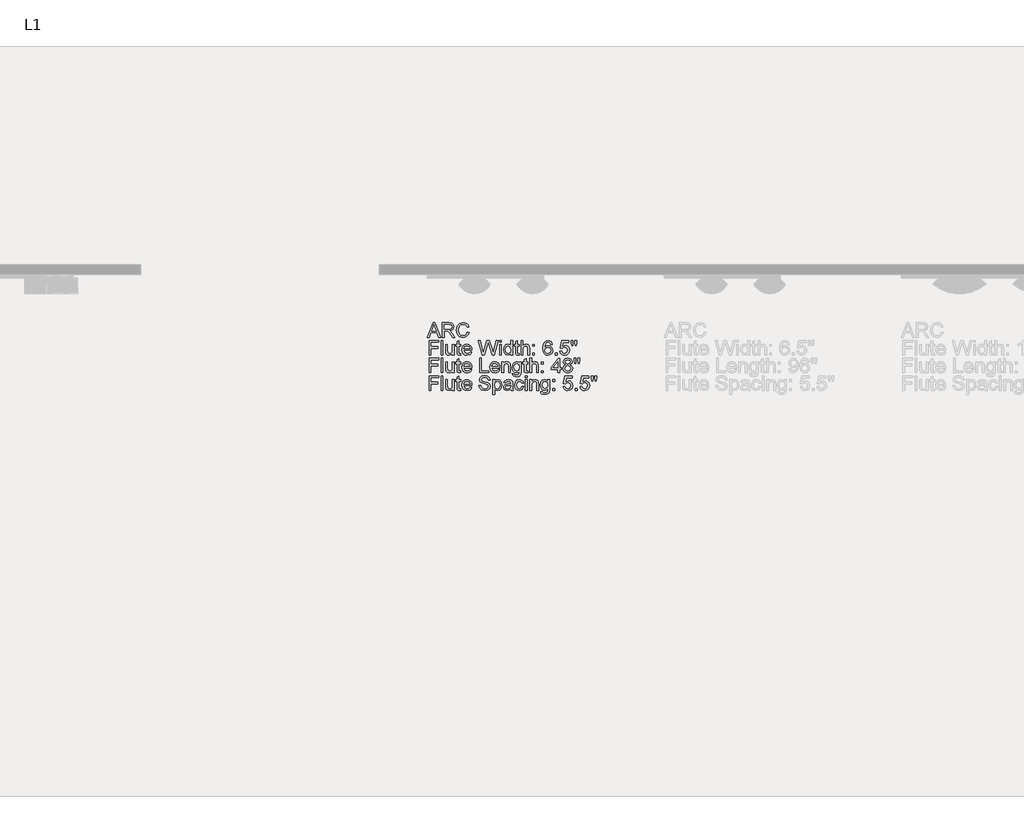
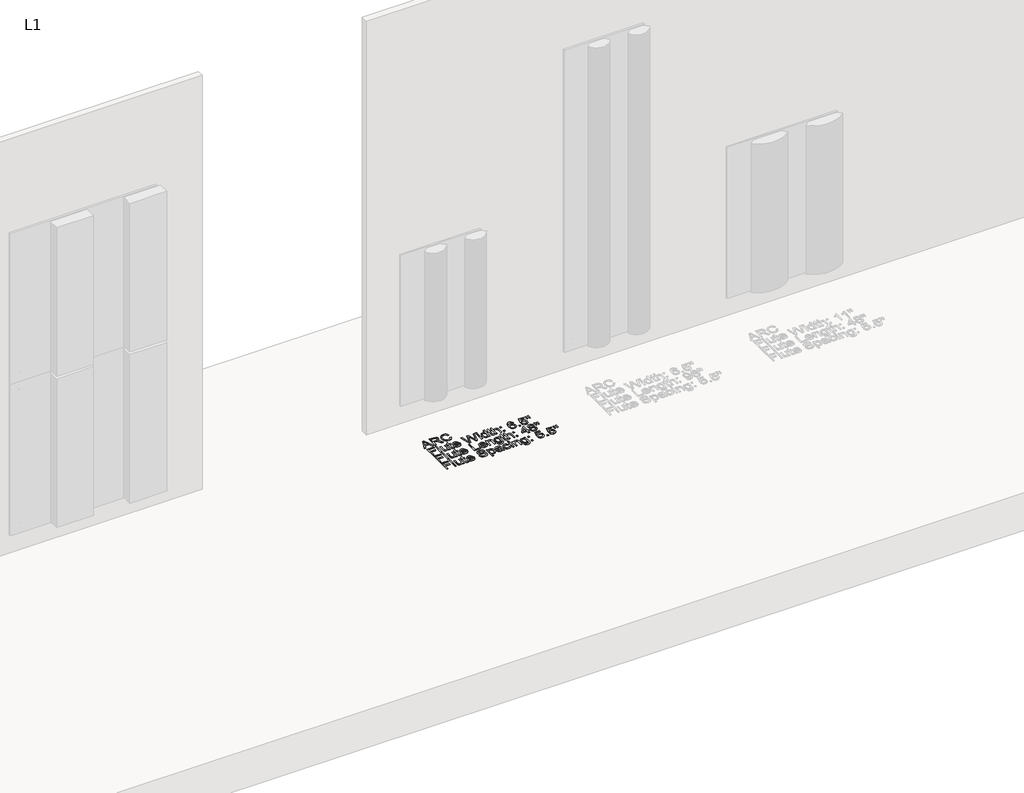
# One storey, part 2 of 17: 1 proxy.
"""IFC4 building model written with IfcOpenShell, lengths in millimetres."""

import ifcopenshell
import ifcopenshell.guid

model = None  # the IFC model being written
_history = None  # IfcOwnerHistory: only IFC2X3 demands one
_inside = {}  # id of a spatial element -> (the spatial element, [elements in it])
_under = {}  # id of a project, library or spatial element -> (it, [spatial elements below it])
_declared = {}  # id of a project -> (the project, [libraries it declares])
_typed = {}  # id of a type object -> (the type object, [elements of that type])
_made_of = {}  # id of a material, layer set ... -> (it, [elements and type objects made of it])


def new_model(schema):
    """Start an empty IFC model of exactly this schema.

    Asked for "IFC4X3", IfcOpenShell would pick the latest addendum, in which some entities
    have other attributes; the version numbers below select the first issue.
    IFC2X3 requires an IfcOwnerHistory on every rooted entity: one is made here for all.
    """
    global model, _history
    if schema == "IFC4X3":
        model = ifcopenshell.file(schema_version=(4, 3, 0, 0))
    else:
        model = ifcopenshell.file(schema=schema)
    _inside.clear()
    _under.clear()
    _declared.clear()
    _typed.clear()
    _made_of.clear()
    _history = None
    if model.schema == "IFC2X3":
        org = make("IfcOrganization", Name="unknown")
        user = make(
            "IfcPersonAndOrganization",
            ThePerson=make("IfcPerson", FamilyName="unknown"),
            TheOrganization=org,
        )
        app = make(
            "IfcApplication",
            ApplicationDeveloper=org,
            Version="unknown",
            ApplicationFullName="unknown",
            ApplicationIdentifier="unknown",
        )
        _history = make(
            "IfcOwnerHistory",
            OwningUser=user,
            OwningApplication=app,
            ChangeAction="ADDED",
            CreationDate=0,
        )
    return model


def make(cls, **values):
    """One entity of the class cls with the attributes given. An attribute that is None is left unset."""
    return model.create_entity(
        cls, **{name: value for name, value in values.items() if value is not None}
    )


def rooted(cls, **values):
    """An entity with a GlobalId (a new one), such as an element, a storey or a relation."""
    return make(cls, GlobalId=ifcopenshell.guid.new(), OwnerHistory=_history, **values)


def si_unit(unit_type, name, prefix=None):
    """IfcSIUnit, for example si_unit("LENGTHUNIT", "METRE", prefix="MILLI")."""
    return make("IfcSIUnit", UnitType=unit_type, Prefix=prefix, Name=name)


def assignment(units):
    """IfcUnitAssignment: the units of a project."""
    return None if units is None else make("IfcUnitAssignment", Units=units)


def point(xyz):
    """IfcCartesianPoint."""
    return None if xyz is None else make("IfcCartesianPoint", Coordinates=xyz)


def direction(xyz):
    """IfcDirection."""
    return None if xyz is None else make("IfcDirection", DirectionRatios=xyz)


def frame(location, z_axis=None, x_axis=None):
    """IfcAxis2Placement3D, a coordinate frame: its origin and axes. An axis left out is left unset."""
    return make(
        "IfcAxis2Placement3D",
        Location=point(location),
        Axis=direction(z_axis),
        RefDirection=direction(x_axis),
    )


def origin():
    """The frame at (0, 0, 0) with its axes left unset."""
    return frame((0.0, 0.0, 0.0))


def origin_with_axes():
    """The frame at (0, 0, 0) with the z axis (0, 0, 1) and the x axis (1, 0, 0) written out."""
    return frame((0.0, 0.0, 0.0), z_axis=(0.0, 0.0, 1.0), x_axis=(1.0, 0.0, 0.0))


def place(relative_to, where):
    """IfcLocalPlacement: puts the frame where relative to a parent placement (None: the world)."""
    return make(
        "IfcLocalPlacement", PlacementRelTo=relative_to, RelativePlacement=where
    )


def context(
    kind, dimensions, precision=None, world=None, true_north=None, identifier=None
):
    """IfcGeometricRepresentationContext, for example the 3D "Model" context."""
    return make(
        "IfcGeometricRepresentationContext",
        ContextIdentifier=identifier,
        ContextType=kind,
        CoordinateSpaceDimension=dimensions,
        Precision=precision,
        WorldCoordinateSystem=world,
        TrueNorth=true_north,
    )


def project(units=None, contexts=None):
    """IfcProject with its units and contexts."""
    return rooted(
        "IfcProject",
        Name="project",
        RepresentationContexts=contexts,
        UnitsInContext=assignment(units),
    )


def spatial(cls, under=None, at=None, **own):
    """A site, building, storey or space (cls), placed at a placement, below another one or the project."""
    s = rooted(cls, ObjectPlacement=at, **own)
    if under is not None:
        _under.setdefault(under.id(), (under, []))[1].append(s)
    return s


def polyline(points):
    """IfcPolyline through the points."""
    return make("IfcPolyline", Points=[point(p) for p in points])


def outline(outer, holes=None, kind="AREA"):
    """IfcArbitraryClosedProfileDef: a profile drawn as a closed curve; with holes, ...WithVoids."""
    if holes is None:
        return make("IfcArbitraryClosedProfileDef", ProfileType=kind, OuterCurve=outer)
    return make(
        "IfcArbitraryProfileDefWithVoids",
        ProfileType=kind,
        OuterCurve=outer,
        InnerCurves=holes,
    )


def extrude(swept, where, along, depth):
    """IfcExtrudedAreaSolid: the profile swept, set in the frame where, extruded along a direction by depth."""
    return make(
        "IfcExtrudedAreaSolid",
        SweptArea=swept,
        Position=where,
        ExtrudedDirection=direction(along),
        Depth=depth,
    )


def shape(context_of_items, identifier, shape_type, items):
    """IfcShapeRepresentation: the items that make up one representation, for example the "Body"."""
    return make(
        "IfcShapeRepresentation",
        ContextOfItems=context_of_items,
        RepresentationIdentifier=identifier,
        RepresentationType=shape_type,
        Items=items,
    )


def made_of(thing, what):
    """Note that an element or type object is made of a material, layer set ...; save() writes the relation."""
    if what is not None:
        _made_of.setdefault(what.id(), (what, []))[1].append(thing)
    return thing


def element(
    cls,
    number,
    at=None,
    inside=None,
    cuts=None,
    type_object=None,
    material=None,
    context=None,
    identifier="Body",
    shape_type=None,
    held_by="IfcProductDefinitionShape",
    body=None,
    shapes=None,
    **own,
):
    """One element of the class cls, such as IfcWall. Its Tag is "e" and its number.

    at: its placement. inside: the storey or other place that contains it. cuts: it is an
    opening in that element (IfcRelVoidsElement). A single representation is given by context,
    identifier, shape_type and body (its items); several are given by shapes. held_by: the class
    of the entity that holds the representations. save() writes the other relations.
    """
    e = rooted(cls, Tag="e%d" % number, ObjectPlacement=at, **own)
    if body is not None:
        shapes = [shape(context, identifier, shape_type, body)]
    if shapes is not None:
        e.Representation = make(held_by, Representations=shapes)
    if inside is not None:
        _inside.setdefault(inside.id(), (inside, []))[1].append(e)
    if cuts is not None:
        rooted(
            "IfcRelVoidsElement", RelatingBuildingElement=cuts, RelatedOpeningElement=e
        )
    if type_object is not None:
        _typed.setdefault(type_object.id(), (type_object, []))[1].append(e)
    return made_of(e, material)


def aggregate(whole, parts):
    """IfcRelAggregates: a whole, such as a stair, and the parts it consists of."""
    return rooted("IfcRelAggregates", RelatingObject=whole, RelatedObjects=parts)


def save(model, path):
    """Write the relations noted so far, then the file.

    IfcRelAggregates (storeys below a building ...), IfcRelContainedInSpatialStructure (elements
    in a storey), IfcRelDefinesByType, IfcRelAssociatesMaterial and IfcRelDeclares: one each for
    every whole, place, type object, material and project.
    """
    for whole, parts in _under.values():
        aggregate(whole, parts)
    for where, things in _inside.values():
        rooted(
            "IfcRelContainedInSpatialStructure",
            RelatedElements=things,
            RelatingStructure=where,
        )
    for kind, things in _typed.values():
        rooted("IfcRelDefinesByType", RelatedObjects=things, RelatingType=kind)
    for what, things in _made_of.values():
        rooted("IfcRelAssociatesMaterial", RelatedObjects=things, RelatingMaterial=what)
    for by, libraries in _declared.values():
        rooted("IfcRelDeclares", RelatingContext=by, RelatedDefinitions=libraries)
    model.write(path)


model = new_model("IFC4")

# Units and contexts
model_context = context("Model", 3, world=origin())
ifc_project = project(units=[si_unit("LENGTHUNIT", "METRE", prefix="MILLI")], contexts=[model_context])

# Site, building, storey
site = spatial("IfcSite", under=ifc_project)
building = spatial("IfcBuilding", under=site)
storey = spatial("IfcBuildingStorey", under=building, Name="L1", Elevation=0.0)

# Proxy
placement = place(None, origin())
element("IfcBuildingElementProxy", 1, Name="3\" Arial", ObjectType="3\" Arial", at=placement, inside=storey, context=model_context, shape_type="SweptSolid", body=[
    extrude(outline(polyline([(1504.4267247, -355.6), (1534.9822674, -279.0522917), (1543.1304121, -279.0522917), (1573.6672665, -355.6), (1563.5568392, -355.6), (1554.8106655, -331.6788411), (1523.2646372, -331.6788411), (1514.5184635, -355.6), (1504.4267247, -355.6)]), holes=[polyline([(1526.7780575, -322.1103776), (1551.3159337, -322.1103776), (1544.4012237, -303.2911534), (1539.0376514, -288.6207552), (1534.272108, -301.6465737), (1526.7780575, -322.1103776)])]), origin_with_axes(), (0.0, 0.0, 1.0), 3.175),
    extrude(outline(polyline([(1583.8898242, -355.6), (1583.8898242, -279.0522917), (1616.8748597, -279.0522917), (1632.1900079, -281.1173605), (1640.5624135, -288.424527), (1643.6927214, -300.0019941), (1638.5066889, -313.7940372), (1622.4813813, -320.9143197), (1627.9197072, -325.0070804), (1635.6753955, -334.8558701), (1648.4395763, -355.6), (1637.3199751, -355.6), (1627.3590551, -339.7335439), (1620.164019, -329.23066), (1615.1088054, -324.2688884), (1610.5581787, -322.4467689), (1605.0077223, -322.1103776), (1593.4582878, -322.1103776), (1593.4582878, -355.6), (1583.8898242, -355.6)]), holes=[polyline([(1593.4582878, -312.5419141), (1614.8752003, -312.5419141), (1625.7985732, -311.1870047), (1632.0031238, -306.8512946), (1634.1242578, -300.3570738), (1630.0782181, -291.928603), (1617.2860046, -288.6207552), (1593.4582878, -288.6207552), (1593.4582878, -312.5419141)])]), origin_with_axes(), (0.0, 0.0, 1.0), 3.175),
    extrude(outline(polyline([(1714.26014, -328.3896818), (1723.8286035, -330.8565513), (1719.4134678, -342.0065212), (1712.4847415, -350.1523298), (1703.3834881, -355.1351259), (1692.4507709, -356.7960579), (1672.538275, -351.7688769), (1660.8580217, -337.2106091), (1656.8493587, -316.7468053), (1661.381297, -295.9466101), (1674.2669525, -282.4629256), (1692.6563434, -277.8562337), (1703.1475469, -279.3466341), (1711.8213031, -283.817835), (1718.4066299, -290.9941827), (1722.6325456, -300.600023), (1713.064082, -302.8800085), (1705.2149518, -291.1156573), (1692.2825753, -287.4246973), (1677.3131626, -291.517458), (1668.8566592, -302.5062404), (1666.4178223, -316.7281169), (1669.3051809, -333.2112904), (1678.2943039, -343.7422068), (1691.4976623, -347.2275944), (1706.1400278, -342.4807394), (1714.26014, -328.3896818)])), origin_with_axes(), (0.0, 0.0, 1.0), 3.175),
    extrude(outline(polyline([(1513.3224056, -448.5448112), (1513.3224056, -371.9971029), (1564.7528971, -371.9971029), (1564.7528971, -381.5655664), (1522.8908691, -381.5655664), (1522.8908691, -404.2906673), (1558.7726074, -404.2906673), (1558.7726074, -413.8591309), (1522.8908691, -413.8591309), (1522.8908691, -448.5448112), (1513.3224056, -448.5448112)])), origin_with_axes(), (0.0, 0.0, 1.0), 3.175),
    extrude(outline(polyline([(1576.7134766, -448.5448112), (1576.7134766, -371.9971029), (1586.2819401, -371.9971029), (1586.2819401, -448.5448112), (1576.7134766, -448.5448112)])), origin_with_axes(), (0.0, 0.0, 1.0), 3.175),
    extrude(outline(polyline([(1636.5163737, -448.5448112), (1636.5163737, -438.8829056), (1629.0223232, -447.0263783), (1619.2482872, -449.7408691), (1610.24982, -447.8346518), (1604.0452694, -443.05042), (1601.1952876, -436.0048912), (1600.6346354, -427.1092103), (1600.6346354, -392.3300879), (1610.203099, -392.3300879), (1610.203099, -422.6053046), (1610.7824395, -432.3606522), (1614.5668416, -438.0886484), (1621.6964683, -440.1724056), (1629.6857615, -438.0419274), (1634.9652361, -432.2391775), (1636.5163737, -421.5774423), (1636.5163737, -392.3300879), (1646.0848372, -392.3300879), (1646.0848372, -448.5448112), (1636.5163737, -448.5448112)])), origin_with_axes(), (0.0, 0.0, 1.0), 3.175),
    extrude(outline(polyline([(1679.5744596, -440.5648621), (1680.7705176, -448.8251373), (1673.6128583, -449.7408691), (1665.5955324, -448.1523547), (1661.5962137, -443.9848403), (1660.4375326, -433.1268768), (1660.4375326, -401.8985514), (1653.2611849, -401.8985514), (1653.2611849, -392.3300879), (1660.4375326, -392.3300879), (1660.4375326, -378.6688636), (1670.0059961, -373.0436536), (1670.0059961, -392.3300879), (1679.5744596, -392.3300879), (1679.5744596, -401.8985514), (1670.0059961, -401.8985514), (1670.0059961, -432.8465507), (1670.510583, -437.7802897), (1672.1458185, -439.5276556), (1675.4069452, -440.1724056), (1679.5744596, -440.5648621)])), origin_with_axes(), (0.0, 0.0, 1.0), 3.175),
    extrude(outline(polyline([(1728.5007049, -431.8), (1737.8822843, -432.9960579), (1729.108078, -445.3490939), (1712.7650675, -449.7408691), (1701.538008, -447.846332), (1692.8992927, -442.1627208), (1687.3908852, -433.0591313), (1685.5547494, -420.9046597), (1687.4095736, -408.3413792), (1692.9740463, -398.9457834), (1701.4959591, -393.0869683), (1712.2231038, -391.1340299), (1722.6161932, -393.0822962), (1730.9208533, -398.927095), (1736.3661875, -408.3040024), (1738.1812988, -420.8485945), (1738.1252336, -423.4275944), (1695.1232129, -423.4275944), (1700.6269483, -435.855384), (1712.9519516, -440.1724056), (1722.3335311, -438.1727462), (1728.5007049, -431.8)]), holes=[polyline([(1695.1232129, -413.8591309), (1728.6128353, -413.8591309), (1724.7817122, -405.1877108), (1712.185727, -400.7024935), (1700.4026874, -404.2813231), (1695.1232129, -413.8591309)])]), origin_with_axes(), (0.0, 0.0, 1.0), 3.175),
    extrude(outline(polyline([(1792.54587, -448.5448112), (1771.6709212, -371.9971029), (1781.5383993, -371.9971029), (1793.6484859, -422.3062901), (1797.386167, -437.8363549), (1801.3854857, -424.100377), (1816.5604709, -371.9971029), (1830.7823474, -371.9971029), (1841.8085065, -409.7663701), (1850.0127165, -437.8363549), (1853.6382671, -422.7548118), (1865.8417958, -371.9971029), (1875.7279622, -371.9971029), (1854.8717019, -448.5448112), (1844.6304557, -448.5448112), (1826.2597533, -389.4894503), (1823.6994417, -381.2478635), (1820.8214273, -391.1714068), (1804.0953045, -448.5448112), (1792.54587, -448.5448112)])), origin_with_axes(), (0.0, 0.0, 1.0), 3.175),
    extrude(outline(polyline([(1884.1003678, -448.5448112), (1884.1003678, -392.3300879), (1893.6688314, -392.3300879), (1893.6688314, -448.5448112), (1884.1003678, -448.5448112)])), origin_with_axes(), (0.0, 0.0, 1.0), 3.175),
    extrude(outline(polyline([(1884.1003678, -381.5655664), (1884.1003678, -371.9971029), (1893.6688314, -371.9971029), (1893.6688314, -381.5655664), (1884.1003678, -381.5655664)])), origin_with_axes(), (0.0, 0.0, 1.0), 3.175),
    extrude(outline(polyline([(1942.707207, -448.5448112), (1942.707207, -439.5183114), (1936.3765097, -447.1852297), (1927.6256639, -449.7408691), (1915.7772149, -446.0405649), (1907.4048093, -435.7152209), (1904.4333529, -420.4935148), (1907.1712043, -405.2624644), (1915.3754142, -394.778269), (1927.5882871, -391.1340299), (1936.4092144, -393.7410625), (1942.707207, -400.5156094), (1942.707207, -371.9971029), (1952.2756706, -371.9971029), (1952.2756706, -448.5448112), (1942.707207, -448.5448112)]), holes=[polyline([(1914.0018164, -420.4561379), (1918.318838, -435.2666992), (1928.504019, -440.1724056), (1938.5677252, -435.4909601), (1942.707207, -421.1849858), (1938.4929716, -405.6549209), (1928.1115625, -400.7024935), (1918.038512, -405.4586927), (1914.0018164, -420.4561379)])]), origin_with_axes(), (0.0, 0.0, 1.0), 3.175),
    extrude(outline(polyline([(1986.9613509, -440.5648621), (1988.1574089, -448.8251373), (1980.9997496, -449.7408691), (1972.9824237, -448.1523547), (1968.983105, -443.9848403), (1967.8244238, -433.1268768), (1967.8244238, -401.8985514), (1960.6480762, -401.8985514), (1960.6480762, -392.3300879), (1967.8244238, -392.3300879), (1967.8244238, -378.6688636), (1977.3928874, -373.0436536), (1977.3928874, -392.3300879), (1986.9613509, -392.3300879), (1986.9613509, -401.8985514), (1977.3928874, -401.8985514), (1977.3928874, -432.8465507), (1977.8974743, -437.7802897), (1979.5327098, -439.5276556), (1982.7938365, -440.1724056), (1986.9613509, -440.5648621)])), origin_with_axes(), (0.0, 0.0, 1.0), 3.175),
    extrude(outline(polyline([(1996.5298145, -448.5448112), (1996.5298145, -371.9971029), (2006.098278, -371.9971029), (2006.098278, -400.1418413), (2013.5596238, -393.3859828), (2022.7496472, -391.1340299), (2033.4954802, -393.5915553), (2040.0177337, -400.3847906), (2041.9800163, -412.9620874), (2041.9800163, -448.5448112), (2032.4115527, -448.5448112), (2032.4115527, -413.9525729), (2029.3653427, -403.860834), (2020.7312994, -400.7024935), (2012.8915133, -402.8329717), (2007.6587598, -408.607689), (2006.098278, -418.6807394), (2006.098278, -448.5448112), (1996.5298145, -448.5448112)])), origin_with_axes(), (0.0, 0.0, 1.0), 3.175),
    extrude(outline(polyline([(2057.5287695, -401.8985514), (2057.5287695, -392.3300879), (2067.0972331, -392.3300879), (2067.0972331, -401.8985514), (2057.5287695, -401.8985514)])), origin_with_axes(), (0.0, 0.0, 1.0), 3.175),
    extrude(outline(polyline([(2057.5287695, -448.5448112), (2057.5287695, -438.9763477), (2067.0972331, -438.9763477), (2067.0972331, -448.5448112), (2057.5287695, -448.5448112)])), origin_with_axes(), (0.0, 0.0, 1.0), 3.175),
    extrude(outline(polyline([(2161.5858106, -392.3300879), (2152.017347, -393.5261458), (2148.3917964, -385.5461967), (2138.8046444, -381.5655664), (2130.1706012, -383.8829287), (2123.6390035, -392.5823814), (2120.9198405, -409.6355512), (2129.3576555, -402.0013377), (2139.8138183, -399.5064355), (2148.653434, -401.2117525), (2156.072731, -406.3277035), (2161.1045841, -414.144129), (2162.7818685, -423.9508698), (2159.623528, -437.1542281), (2150.9334195, -446.4984308), (2138.3934995, -449.7408691), (2127.537872, -447.5917025), (2118.8921485, -441.1442027), (2113.2365698, -429.7629638), (2111.351377, -412.8125802), (2113.4444784, -393.7550788), (2119.7237826, -380.7245882), (2128.2970885, -374.1789742), (2139.4026734, -371.9971029), (2154.5215933, -377.398052), (2161.5858106, -392.3300879)]), holes=[polyline([(2120.9198405, -423.8013625), (2123.1344165, -432.0896703), (2129.0212642, -438.1073368), (2137.6459633, -440.1724056), (2148.9244159, -435.8927608), (2153.213405, -424.2685726), (2148.9804811, -413.1396273), (2137.2535068, -409.0748991), (2125.6760397, -413.1396273), (2120.9198405, -423.8013625)])]), origin_with_axes(), (0.0, 0.0, 1.0), 3.175),
    extrude(outline(polyline([(2175.9385059, -448.5448112), (2175.9385059, -438.9763477), (2185.5069694, -438.9763477), (2185.5069694, -448.5448112), (2175.9385059, -448.5448112)])), origin_with_axes(), (0.0, 0.0, 1.0), 3.175),
    extrude(outline(polyline([(2201.0557227, -428.2118262), (2210.6241862, -427.0157682), (2215.4457948, -436.8739021), (2225.4440917, -440.1724056), (2237.4420479, -435.5844021), (2241.7216927, -423.408906), (2237.7130298, -412.0463555), (2225.5935989, -407.8788411), (2217.1931607, -409.5421092), (2211.8202441, -413.8591309), (2202.2517806, -412.6630729), (2210.6241862, -373.1931608), (2247.7019824, -373.1931608), (2247.7019824, -382.7616243), (2218.361186, -382.7616243), (2214.2497368, -403.8421456), (2228.2473525, -398.3103776), (2237.1897544, -400.0250388), (2244.6183955, -405.1690224), (2249.6222161, -413.0088084), (2251.2901563, -422.810877), (2249.7904117, -432.3793406), (2245.2911781, -440.5648621), (2236.6758233, -447.4468674), (2225.4067148, -449.7408691), (2216.008783, -448.2668212), (2208.5217406, -443.8446773), (2203.3894373, -436.9883685), (2201.0557227, -428.2118262)])), origin_with_axes(), (0.0, 0.0, 1.0), 3.175),
    extrude(outline(polyline([(2261.9986125, -399.5064355), (2259.6625619, -384.7239069), (2259.6625619, -371.9971029), (2269.2310254, -371.9971029), (2269.2310254, -384.7239069), (2267.137924, -399.5064355), (2261.9986125, -399.5064355)])), origin_with_axes(), (0.0, 0.0, 1.0), 3.175),
    extrude(outline(polyline([(2281.0794744, -399.5064355), (2278.7994889, -384.7239069), (2278.7994889, -371.9971029), (2288.3679525, -371.9971029), (2288.3679525, -384.7239069), (2286.1253438, -399.5064355), (2281.0794744, -399.5064355)])), origin_with_axes(), (0.0, 0.0, 1.0), 3.175),
    extrude(outline(polyline([(1513.3224056, -541.4896224), (1513.3224056, -464.9419141), (1564.7528971, -464.9419141), (1564.7528971, -474.5103776), (1522.8908691, -474.5103776), (1522.8908691, -497.2354785), (1558.7726074, -497.2354785), (1558.7726074, -506.8039421), (1522.8908691, -506.8039421), (1522.8908691, -541.4896224), (1513.3224056, -541.4896224)])), origin_with_axes(), (0.0, 0.0, 1.0), 3.175),
    extrude(outline(polyline([(1576.7134766, -541.4896224), (1576.7134766, -464.9419141), (1586.2819401, -464.9419141), (1586.2819401, -541.4896224), (1576.7134766, -541.4896224)])), origin_with_axes(), (0.0, 0.0, 1.0), 3.175),
    extrude(outline(polyline([(1636.5163737, -541.4896224), (1636.5163737, -531.8277168), (1629.0223232, -539.9711895), (1619.2482872, -542.6856803), (1610.24982, -540.779463), (1604.0452694, -535.9952312), (1601.1952876, -528.9497024), (1600.6346354, -520.0540215), (1600.6346354, -485.2748991), (1610.203099, -485.2748991), (1610.203099, -515.5501158), (1610.7824395, -525.3054634), (1614.5668416, -531.0334596), (1621.6964683, -533.1172168), (1629.6857615, -530.9867386), (1634.9652361, -525.1839887), (1636.5163737, -514.5222535), (1636.5163737, -485.2748991), (1646.0848372, -485.2748991), (1646.0848372, -541.4896224), (1636.5163737, -541.4896224)])), origin_with_axes(), (0.0, 0.0, 1.0), 3.175),
    extrude(outline(polyline([(1679.5744596, -533.5096733), (1680.7705176, -541.7699485), (1673.6128583, -542.6856803), (1665.5955324, -541.0971659), (1661.5962137, -536.9296515), (1660.4375326, -526.071688), (1660.4375326, -494.8433626), (1653.2611849, -494.8433626), (1653.2611849, -485.2748991), (1660.4375326, -485.2748991), (1660.4375326, -471.6136748), (1670.0059961, -465.9884648), (1670.0059961, -485.2748991), (1679.5744596, -485.2748991), (1679.5744596, -494.8433626), (1670.0059961, -494.8433626), (1670.0059961, -525.7913619), (1670.510583, -530.7251009), (1672.1458185, -532.4724668), (1675.4069452, -533.1172168), (1679.5744596, -533.5096733)])), origin_with_axes(), (0.0, 0.0, 1.0), 3.175),
    extrude(outline(polyline([(1728.5007049, -524.7448112), (1737.8822843, -525.9408691), (1729.108078, -538.2939051), (1712.7650675, -542.6856803), (1701.538008, -540.7911432), (1692.8992927, -535.107532), (1687.3908852, -526.0039425), (1685.5547494, -513.8494709), (1687.4095736, -501.2861904), (1692.9740463, -491.8905946), (1701.4959591, -486.0317795), (1712.2231038, -484.0788411), (1722.6161932, -486.0271074), (1730.9208533, -491.8719062), (1736.3661875, -501.2488136), (1738.1812988, -513.7934057), (1738.1252336, -516.3724056), (1695.1232129, -516.3724056), (1700.6269483, -528.8001952), (1712.9519516, -533.1172168), (1722.3335311, -531.1175574), (1728.5007049, -524.7448112)]), holes=[polyline([(1695.1232129, -506.8039421), (1728.6128353, -506.8039421), (1724.7817122, -498.132522), (1712.185727, -493.6473047), (1700.4026874, -497.2261343), (1695.1232129, -506.8039421)])]), origin_with_axes(), (0.0, 0.0, 1.0), 3.175),
    extrude(outline(polyline([(1778.8472689, -541.4896224), (1778.8472689, -464.9419141), (1788.4157324, -464.9419141), (1788.4157324, -531.9211589), (1826.6895866, -531.9211589), (1826.6895866, -541.4896224), (1778.8472689, -541.4896224)])), origin_with_axes(), (0.0, 0.0, 1.0), 3.175),
    extrude(outline(polyline([(1875.6158318, -524.7448112), (1884.9974113, -525.9408691), (1876.223205, -538.2939051), (1859.8801945, -542.6856803), (1848.653135, -540.7911432), (1840.0144196, -535.107532), (1834.5060121, -526.0039425), (1832.6698763, -513.8494709), (1834.5247005, -501.2861904), (1840.0891732, -491.8905946), (1848.6110861, -486.0317795), (1859.3382307, -484.0788411), (1869.7313202, -486.0271074), (1878.0359803, -491.8719062), (1883.4813144, -501.2488136), (1885.2964258, -513.7934057), (1885.2403606, -516.3724056), (1842.2383398, -516.3724056), (1847.7420752, -528.8001952), (1860.0670786, -533.1172168), (1869.448658, -531.1175574), (1875.6158318, -524.7448112)]), holes=[polyline([(1842.2383398, -506.8039421), (1875.7279622, -506.8039421), (1871.8968391, -498.132522), (1859.3008539, -493.6473047), (1847.5178144, -497.2261343), (1842.2383398, -506.8039421)])]), origin_with_axes(), (0.0, 0.0, 1.0), 3.175),
    extrude(outline(polyline([(1894.8648893, -541.4896224), (1894.8648893, -485.2748991), (1904.4333529, -485.2748991), (1904.4333529, -493.1240293), (1911.7498636, -486.3401382), (1921.7388162, -484.0788411), (1930.7746602, -485.9009607), (1936.941834, -490.6851924), (1939.8105042, -497.7213771), (1940.3150911, -506.9721377), (1940.3150911, -541.4896224), (1930.7466276, -541.4896224), (1930.7466276, -508.2616377), (1929.6440117, -499.79579), (1925.7474792, -495.319917), (1919.1785047, -493.6473047), (1908.7970955, -497.4036742), (1904.4333529, -511.6629274), (1904.4333529, -541.4896224), (1894.8648893, -541.4896224)])), origin_with_axes(), (0.0, 0.0, 1.0), 3.175),
    extrude(outline(polyline([(1951.0796126, -546.2738542), (1960.6480762, -547.4699121), (1963.7503515, -552.5157816), (1973.0384889, -554.6462598), (1982.8312133, -552.2354555), (1987.5033147, -545.4702527), (1988.1574089, -534.3132747), (1981.4202387, -539.6955355), (1973.2066846, -541.4896224), (1963.3415426, -539.4011931), (1955.985319, -533.1359052), (1951.4089958, -523.950554), (1949.8835547, -513.1019347), (1952.6214061, -498.272685), (1960.5452899, -487.7791454), (1972.7394744, -484.0788411), (1981.2754036, -486.1719425), (1988.1574089, -492.4512467), (1988.1574089, -485.2748991), (1997.7258724, -485.2748991), (1997.7258724, -533.8086878), (1995.1094957, -552.3943069), (1986.8211879, -561.0376944), (1972.8516049, -564.2147233), (1956.9384277, -559.7388502), (1952.4415302, -554.1346647), (1951.0796126, -546.2738542)]), holes=[polyline([(1959.4520182, -512.4478405), (1963.5354348, -527.2584017), (1973.7860251, -531.9211589), (1984.0179271, -527.2864343), (1988.1574089, -512.7281666), (1983.8964524, -498.4595691), (1973.6365179, -493.6473047), (1963.5915, -498.3848154), (1959.4520182, -512.4478405)])]), origin_with_axes(), (0.0, 0.0, 1.0), 3.175),
    extrude(outline(polyline([(2032.4115527, -533.5096733), (2033.6076107, -541.7699485), (2026.4499514, -542.6856803), (2018.4326255, -541.0971659), (2014.4333068, -536.9296515), (2013.2746257, -526.071688), (2013.2746257, -494.8433626), (2006.098278, -494.8433626), (2006.098278, -485.2748991), (2013.2746257, -485.2748991), (2013.2746257, -471.6136748), (2022.8430892, -465.9884648), (2022.8430892, -485.2748991), (2032.4115527, -485.2748991), (2032.4115527, -494.8433626), (2022.8430892, -494.8433626), (2022.8430892, -525.7913619), (2023.3476761, -530.7251009), (2024.9829116, -532.4724668), (2028.2440383, -533.1172168), (2032.4115527, -533.5096733)])), origin_with_axes(), (0.0, 0.0, 1.0), 3.175),
    extrude(outline(polyline([(2041.9800163, -541.4896224), (2041.9800163, -464.9419141), (2051.5484798, -464.9419141), (2051.5484798, -493.0866525), (2059.0098257, -486.330794), (2068.199849, -484.0788411), (2078.9456821, -486.5363664), (2085.4679355, -493.3296018), (2087.4302181, -505.9068986), (2087.4302181, -541.4896224), (2077.8617546, -541.4896224), (2077.8617546, -506.8973841), (2074.8155445, -496.8056452), (2066.1815012, -493.6473047), (2058.3417152, -495.7777829), (2053.1089617, -501.5525002), (2051.5484798, -511.6255506), (2051.5484798, -541.4896224), (2041.9800163, -541.4896224)])), origin_with_axes(), (0.0, 0.0, 1.0), 3.175),
    extrude(outline(polyline([(2102.9789714, -494.8433626), (2102.9789714, -485.2748991), (2112.5474349, -485.2748991), (2112.5474349, -494.8433626), (2102.9789714, -494.8433626)])), origin_with_axes(), (0.0, 0.0, 1.0), 3.175),
    extrude(outline(polyline([(2102.9789714, -541.4896224), (2102.9789714, -531.9211589), (2112.5474349, -531.9211589), (2112.5474349, -541.4896224), (2102.9789714, -541.4896224)])), origin_with_axes(), (0.0, 0.0, 1.0), 3.175),
    extrude(outline(polyline([(2189.0951432, -541.4896224), (2189.0951432, -523.5487533), (2154.4094629, -523.5487533), (2154.4094629, -513.9802897), (2191.4872591, -466.137972), (2198.6636068, -466.137972), (2198.6636068, -513.9802897), (2208.2320703, -513.9802897), (2208.2320703, -523.5487533), (2198.6636068, -523.5487533), (2198.6636068, -541.4896224), (2189.0951432, -541.4896224)]), holes=[polyline([(2189.0951432, -513.9802897), (2189.0951432, -484.4152324), (2166.1831583, -513.9802897), (2189.0951432, -513.9802897)])]), origin_with_axes(), (0.0, 0.0, 1.0), 3.175),
    extrude(outline(polyline([(2230.5460263, -499.3285799), (2221.8278852, -493.385667), (2218.9965918, -484.1349064), (2220.5383852, -476.6548721), (2225.1637656, -470.473682), (2232.3541295, -466.3248561), (2241.5908739, -464.9419141), (2250.8836834, -466.3575608), (2258.1674894, -470.6045009), (2262.8769676, -476.8838051), (2264.4467936, -484.396544), (2261.652877, -493.4136996), (2253.1776852, -499.3285799), (2263.3535219, -506.8319747), (2266.8389095, -519.2130432), (2265.110232, -528.3610176), (2259.9241995, -535.9204776), (2251.9162178, -540.9943797), (2241.7216927, -542.6856803), (2231.5271676, -540.9873715), (2223.5191859, -535.892445), (2218.3331534, -528.2605675), (2216.6044759, -518.9514055), (2220.2300266, -506.2806667), (2230.5460263, -499.3285799)]), holes=[polyline([(2228.5650553, -484.4152324), (2231.9570009, -491.9279714), (2241.8338231, -494.8433626), (2251.5144171, -491.9466598), (2254.8783301, -484.8450658), (2251.4022867, -477.4911783), (2241.7216927, -474.5103776), (2232.0130661, -477.4257688), (2228.5650553, -484.4152324)]), polyline([(2226.1729395, -518.6150142), (2227.7707981, -525.8193945), (2233.4240407, -531.2109995), (2241.7964463, -533.1172168), (2253.1963736, -529.1085538), (2257.270446, -518.9140287), (2253.0655548, -508.5232753), (2241.4787434, -504.4118262), (2230.2189792, -508.4672101), (2226.1729395, -518.6150142)])]), origin_with_axes(), (0.0, 0.0, 1.0), 3.175),
    extrude(outline(polyline([(2277.5473658, -492.4512467), (2275.2113151, -477.6687181), (2275.2113151, -464.9419141), (2284.7797787, -464.9419141), (2284.7797787, -477.6687181), (2282.6866773, -492.4512467), (2277.5473658, -492.4512467)])), origin_with_axes(), (0.0, 0.0, 1.0), 3.175),
    extrude(outline(polyline([(2296.6282276, -492.4512467), (2294.3482422, -477.6687181), (2294.3482422, -464.9419141), (2303.9167057, -464.9419141), (2303.9167057, -477.6687181), (2301.6740971, -492.4512467), (2296.6282276, -492.4512467)])), origin_with_axes(), (0.0, 0.0, 1.0), 3.175),
    extrude(outline(polyline([(1513.3224056, -634.4344336), (1513.3224056, -557.8867253), (1564.7528971, -557.8867253), (1564.7528971, -567.4551888), (1522.8908691, -567.4551888), (1522.8908691, -590.1802897), (1558.7726074, -590.1802897), (1558.7726074, -599.7487533), (1522.8908691, -599.7487533), (1522.8908691, -634.4344336), (1513.3224056, -634.4344336)])), origin_with_axes(), (0.0, 0.0, 1.0), 3.175),
    extrude(outline(polyline([(1576.7134766, -634.4344336), (1576.7134766, -557.8867253), (1586.2819401, -557.8867253), (1586.2819401, -634.4344336), (1576.7134766, -634.4344336)])), origin_with_axes(), (0.0, 0.0, 1.0), 3.175),
    extrude(outline(polyline([(1636.5163737, -634.4344336), (1636.5163737, -624.772528), (1629.0223232, -632.9160007), (1619.2482872, -635.6304915), (1610.24982, -633.7242742), (1604.0452694, -628.9400424), (1601.1952876, -621.8945136), (1600.6346354, -612.9988327), (1600.6346354, -578.2197103), (1610.203099, -578.2197103), (1610.203099, -608.494927), (1610.7824395, -618.2502746), (1614.5668416, -623.9782708), (1621.6964683, -626.062028), (1629.6857615, -623.9315498), (1634.9652361, -618.1287999), (1636.5163737, -607.4670647), (1636.5163737, -578.2197103), (1646.0848372, -578.2197103), (1646.0848372, -634.4344336), (1636.5163737, -634.4344336)])), origin_with_axes(), (0.0, 0.0, 1.0), 3.175),
    extrude(outline(polyline([(1679.5744596, -626.4544845), (1680.7705176, -634.7147597), (1673.6128583, -635.6304915), (1665.5955324, -634.0419771), (1661.5962137, -629.8744627), (1660.4375326, -619.0164992), (1660.4375326, -587.7881738), (1653.2611849, -587.7881738), (1653.2611849, -578.2197103), (1660.4375326, -578.2197103), (1660.4375326, -564.558486), (1670.0059961, -558.933276), (1670.0059961, -578.2197103), (1679.5744596, -578.2197103), (1679.5744596, -587.7881738), (1670.0059961, -587.7881738), (1670.0059961, -618.7361731), (1670.510583, -623.6699121), (1672.1458185, -625.417278), (1675.4069452, -626.062028), (1679.5744596, -626.4544845)])), origin_with_axes(), (0.0, 0.0, 1.0), 3.175),
    extrude(outline(polyline([(1728.5007049, -617.6896224), (1737.8822843, -618.8856803), (1729.108078, -631.2387163), (1712.7650675, -635.6304915), (1701.538008, -633.7359544), (1692.8992927, -628.0523432), (1687.3908852, -618.9487537), (1685.5547494, -606.7942821), (1687.4095736, -594.2310016), (1692.9740463, -584.8354058), (1701.4959591, -578.9765907), (1712.2231038, -577.0236523), (1722.6161932, -578.9719186), (1730.9208533, -584.8167174), (1736.3661875, -594.1936248), (1738.1812988, -606.7382169), (1738.1252336, -609.3172168), (1695.1232129, -609.3172168), (1700.6269483, -621.7450064), (1712.9519516, -626.062028), (1722.3335311, -624.0623686), (1728.5007049, -617.6896224)]), holes=[polyline([(1695.1232129, -599.7487533), (1728.6128353, -599.7487533), (1724.7817122, -591.0773332), (1712.185727, -586.5921159), (1700.4026874, -590.1709455), (1695.1232129, -599.7487533)])]), origin_with_axes(), (0.0, 0.0, 1.0), 3.175),
    extrude(outline(polyline([(1775.2590951, -608.1211589), (1784.8275586, -608.1211589), (1787.9111455, -617.6989666), (1795.4425728, -623.7540099), (1806.9172537, -626.062028), (1816.9155506, -624.3146621), (1823.3723946, -619.5117419), (1825.4935286, -613.0922747), (1823.9050142, -607.1213292), (1817.4014491, -602.7762749), (1803.4692429, -599.1226917), (1788.4717976, -594.4038693), (1780.3329971, -587.2835869), (1777.6512109, -577.7711886), (1780.9684029, -566.9412577), (1790.6583411, -559.2976999), (1804.8428407, -556.6906673), (1819.9804491, -559.4191745), (1830.072188, -567.4365004), (1833.8659342, -579.4157682), (1824.2974707, -579.4157682), (1818.8778332, -569.585667), (1805.2166088, -566.2591309), (1791.5180077, -569.5482902), (1787.2196745, -577.4908625), (1790.2658846, -584.1252464), (1805.8893914, -589.4701303), (1822.8210867, -594.2730505), (1832.0811915, -602.0287387), (1835.0619922, -612.8493254), (1831.6326698, -624.2959737), (1821.7651918, -632.6496909), (1807.2910218, -635.6304915), (1790.2004751, -632.4160858), (1779.3892326, -622.7354918), (1775.2590951, -608.1211589)])), origin_with_axes(), (0.0, 0.0, 1.0), 3.175),
    extrude(outline(polyline([(1848.2186296, -655.9634766), (1848.2186296, -578.2197103), (1857.7870931, -578.2197103), (1857.7870931, -587.6012898), (1864.4027886, -579.6680617), (1873.3358464, -577.0236523), (1885.4646214, -580.7239566), (1893.3885053, -591.1520868), (1896.0609473, -605.8972386), (1893.0427698, -621.3992709), (1884.2779077, -631.9582199), (1872.1771652, -635.6304915), (1863.8514806, -633.1729662), (1857.7870931, -626.9590715), (1857.7870931, -655.9634766), (1848.2186296, -655.9634766)]), holes=[polyline([(1857.7870931, -606.7755937), (1861.9265749, -621.3525498), (1871.9715928, -626.062028), (1882.2221831, -621.1843542), (1886.4924837, -606.0654343), (1882.3249693, -591.4511013), (1872.3640493, -586.5921159), (1862.206901, -591.75946), (1857.7870931, -606.7755937)])]), origin_with_axes(), (0.0, 0.0, 1.0), 3.175),
    extrude(outline(polyline([(1942.707207, -627.2580859), (1933.4284138, -633.7429626), (1923.1778234, -635.6304915), (1909.2829941, -631.089209), (1904.4333529, -619.4837093), (1906.2648166, -611.9149051), (1911.077081, -606.420514), (1917.7768743, -603.2808619), (1926.0558379, -601.8418547), (1942.6511418, -598.5526953), (1942.707207, -596.4222171), (1940.0721419, -589.3579999), (1929.4945044, -586.5921159), (1919.8139105, -588.4329238), (1915.1978744, -594.9645215), (1905.6294108, -593.7684635), (1909.7688926, -584.4242609), (1918.1039214, -578.9485581), (1930.7279392, -577.0236523), (1942.3240947, -578.7242972), (1948.8743808, -582.9945979), (1951.8084604, -589.4888187), (1952.2756706, -597.8612243), (1952.2756706, -609.7657385), (1952.7615691, -626.3890751), (1954.6677865, -634.4344336), (1945.0993229, -634.4344336), (1942.707207, -627.2580859)]), holes=[polyline([(1942.707207, -608.1211589), (1927.2705842, -611.0552385), (1919.0383417, -612.6063761), (1915.3100048, -615.1293109), (1914.0018164, -618.8109267), (1916.8517982, -623.987615), (1925.2148596, -626.062028), (1934.8954536, -623.7726983), (1941.137381, -618.2315862), (1942.6511418, -610.8309776), (1942.707207, -608.1211589)])]), origin_with_axes(), (0.0, 0.0, 1.0), 3.175),
    extrude(outline(polyline([(2001.3140462, -614.1014486), (2010.8825098, -615.2975065), (2003.2015752, -630.2388866), (1988.02659, -635.6304915), (1977.8484173, -633.7499707), (1969.8894926, -628.1084084), (1964.7525172, -618.9534258), (1963.0401921, -606.5326444), (1965.9649275, -590.6381556), (1974.8792969, -580.4249421), (1987.8957712, -577.0236523), (2002.4446948, -581.6957537), (2009.6864518, -594.9645215), (2000.1179883, -596.1605794), (1995.679492, -588.993576), (1987.9705248, -586.5921159), (1976.8789562, -591.3202824), (1972.6086556, -606.2710067), (1976.7855142, -621.361894), (1987.7088871, -626.062028), (1996.7260427, -623.1279484), (2001.3140462, -614.1014486)])), origin_with_axes(), (0.0, 0.0, 1.0), 3.175),
    extrude(outline(polyline([(2019.2549154, -567.4551888), (2019.2549154, -557.8867253), (2028.8233789, -557.8867253), (2028.8233789, -567.4551888), (2019.2549154, -567.4551888)])), origin_with_axes(), (0.0, 0.0, 1.0), 3.175),
    extrude(outline(polyline([(2019.2549154, -634.4344336), (2019.2549154, -578.2197103), (2028.8233789, -578.2197103), (2028.8233789, -634.4344336), (2019.2549154, -634.4344336)])), origin_with_axes(), (0.0, 0.0, 1.0), 3.175),
    extrude(outline(polyline([(2043.1760742, -634.4344336), (2043.1760742, -578.2197103), (2052.7445378, -578.2197103), (2052.7445378, -586.0688405), (2060.0610485, -579.2849494), (2070.0500011, -577.0236523), (2079.0858451, -578.8457719), (2085.2530189, -583.6300036), (2088.1216891, -590.6661883), (2088.626276, -599.9169489), (2088.626276, -634.4344336), (2079.0578125, -634.4344336), (2079.0578125, -601.2064489), (2077.9551966, -592.7406012), (2074.0586641, -588.2647282), (2067.4896896, -586.5921159), (2057.1082804, -590.3484854), (2052.7445378, -604.6077386), (2052.7445378, -634.4344336), (2043.1760742, -634.4344336)])), origin_with_axes(), (0.0, 0.0, 1.0), 3.175),
    extrude(outline(polyline([(2099.3907975, -639.2186654), (2108.9592611, -640.4147233), (2112.0615364, -645.4605928), (2121.3496738, -647.591071), (2131.1423982, -645.1802667), (2135.8144996, -638.4150639), (2136.4685938, -627.2580859), (2129.7314236, -632.6403467), (2121.5178695, -634.4344336), (2111.6527275, -632.3460043), (2104.2965039, -626.0807164), (2099.7201807, -616.8953652), (2098.1947396, -606.0467459), (2100.932591, -591.2174962), (2108.8564748, -580.7239566), (2121.0506593, -577.0236523), (2129.5865885, -579.1167537), (2136.4685938, -585.3960579), (2136.4685938, -578.2197103), (2146.0370573, -578.2197103), (2146.0370573, -626.753499), (2143.4206805, -645.3391181), (2135.1323728, -653.9825056), (2121.1627898, -657.1595345), (2105.2496126, -652.6836614), (2100.7527151, -647.0794759), (2099.3907975, -639.2186654)]), holes=[polyline([(2107.7632031, -605.3926517), (2111.8466197, -620.2032129), (2122.09721, -624.8659701), (2132.329112, -620.2312455), (2136.4685938, -605.6729778), (2132.2076373, -591.4043803), (2121.9477028, -586.5921159), (2111.9026849, -591.3296266), (2107.7632031, -605.3926517)])]), origin_with_axes(), (0.0, 0.0, 1.0), 3.175),
    extrude(outline(polyline([(2162.7818685, -587.7881738), (2162.7818685, -578.2197103), (2172.350332, -578.2197103), (2172.350332, -587.7881738), (2162.7818685, -587.7881738)])), origin_with_axes(), (0.0, 0.0, 1.0), 3.175),
    extrude(outline(polyline([(2162.7818685, -634.4344336), (2162.7818685, -624.8659701), (2172.350332, -624.8659701), (2172.350332, -634.4344336), (2162.7818685, -634.4344336)])), origin_with_axes(), (0.0, 0.0, 1.0), 3.175),
    extrude(outline(polyline([(2217.8005339, -614.1014486), (2227.3689974, -612.9053906), (2232.190606, -622.7635245), (2242.1889028, -626.062028), (2254.1868591, -621.4740245), (2258.4665039, -609.2985284), (2254.457841, -597.9359779), (2242.3384101, -593.7684635), (2233.9379719, -595.4317316), (2228.5650553, -599.7487533), (2218.9965918, -598.5526953), (2227.3689974, -559.0827832), (2264.4467936, -559.0827832), (2264.4467936, -568.6512467), (2235.1059972, -568.6512467), (2230.994548, -589.731768), (2244.9921637, -584.2), (2253.9345656, -585.9146612), (2261.3632067, -591.0586448), (2266.3670273, -598.8984308), (2268.0349675, -608.7004994), (2266.5352229, -618.268963), (2262.0359893, -626.4544845), (2253.4206345, -633.3364898), (2242.151526, -635.6304915), (2232.7535942, -634.1564436), (2225.2665518, -629.7342996), (2220.1342485, -622.8779909), (2217.8005339, -614.1014486)])), origin_with_axes(), (0.0, 0.0, 1.0), 3.175),
    extrude(outline(polyline([(2281.1916048, -634.4344336), (2281.1916048, -624.8659701), (2290.7600684, -624.8659701), (2290.7600684, -634.4344336), (2281.1916048, -634.4344336)])), origin_with_axes(), (0.0, 0.0, 1.0), 3.175),
    extrude(outline(polyline([(2306.3088216, -614.1014486), (2315.8772852, -612.9053906), (2320.6988937, -622.7635245), (2330.6971906, -626.062028), (2342.6951468, -621.4740245), (2346.9747917, -609.2985284), (2342.9661287, -597.9359779), (2330.8466979, -593.7684635), (2322.4462596, -595.4317316), (2317.0733431, -599.7487533), (2307.5048796, -598.5526953), (2315.8772852, -559.0827832), (2352.9550814, -559.0827832), (2352.9550814, -568.6512467), (2323.614285, -568.6512467), (2319.5028358, -589.731768), (2333.5004514, -584.2), (2342.4428534, -585.9146612), (2349.8714945, -591.0586448), (2354.875315, -598.8984308), (2356.5432552, -608.7004994), (2355.0435107, -618.268963), (2350.5442771, -626.4544845), (2341.9289222, -633.3364898), (2330.6598138, -635.6304915), (2321.261882, -634.1564436), (2313.7748396, -629.7342996), (2308.6425362, -622.8779909), (2306.3088216, -614.1014486)])), origin_with_axes(), (0.0, 0.0, 1.0), 3.175),
    extrude(outline(polyline([(2367.2517115, -585.3960579), (2364.9156608, -570.6135293), (2364.9156608, -557.8867253), (2374.4841244, -557.8867253), (2374.4841244, -570.6135293), (2372.391023, -585.3960579), (2367.2517115, -585.3960579)])), origin_with_axes(), (0.0, 0.0, 1.0), 3.175),
    extrude(outline(polyline([(2386.3325734, -585.3960579), (2384.0525879, -570.6135293), (2384.0525879, -557.8867253), (2393.6210514, -557.8867253), (2393.6210514, -570.6135293), (2391.3784428, -585.3960579), (2386.3325734, -585.3960579)])), origin_with_axes(), (0.0, 0.0, 1.0), 3.175),
])

save(model, "model.ifc")
